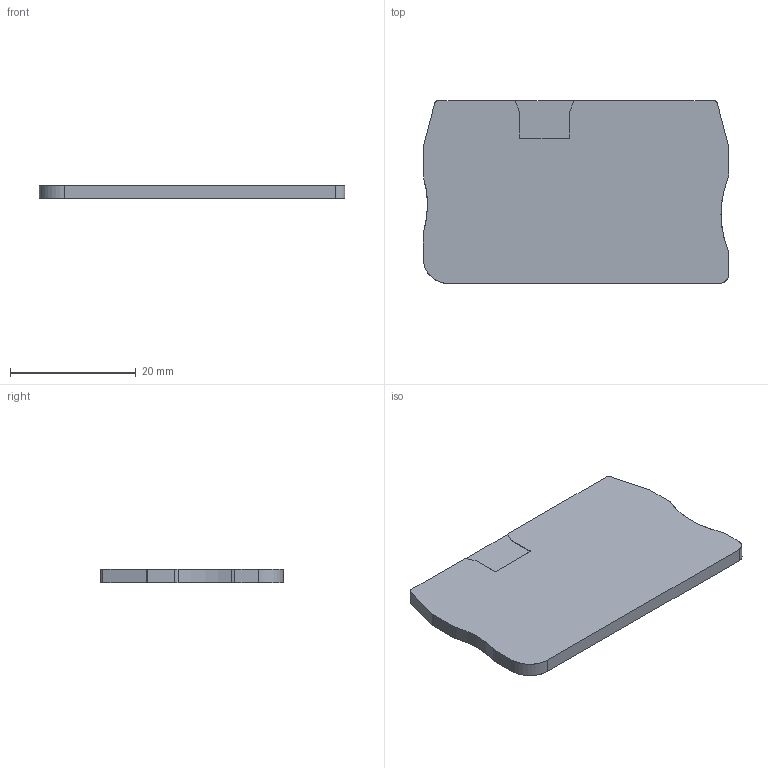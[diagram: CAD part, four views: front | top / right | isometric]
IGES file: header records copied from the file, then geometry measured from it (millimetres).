
Global section: file name: 3030417_d_st25.igs; native system: OneSpace Designer 3D IGES; preprocessor: 11.50A  18-Jul-2002; date: 20040203.140926; units: millimetre
Bounding box: 48.6 x 29.05 x 2.2 mm (x, y, z)
Surface area: 3096.6 mm2 (no closed solid volume)
Topology: 0 solids, 0 shells, 38 faces, 296 edges, 296 vertices
Faces by surface type: bspline 38
